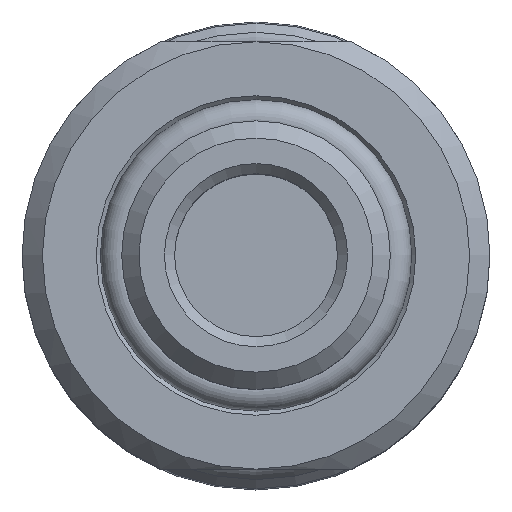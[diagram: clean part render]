
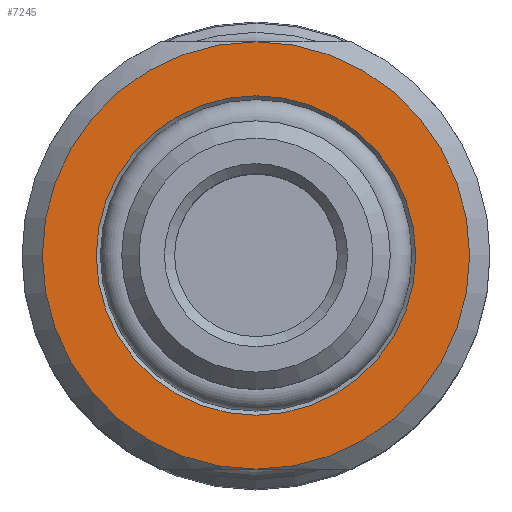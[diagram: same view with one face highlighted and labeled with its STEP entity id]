
A CAD part, top view. The second image highlights one B-rep face of the part: STEP entity #7245.
In plain terms, the highlighted planar face has unit normal (0, 0, 1).
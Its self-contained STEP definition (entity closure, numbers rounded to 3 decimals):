
#7245 = ADVANCED_FACE( '', ( #10513, #10514 ), #10515, .F. );
#10513 = FACE_OUTER_BOUND( '', #12436, .T. );
#10514 = FACE_BOUND( '', #12437, .T. );
#10515 = PLANE( '', #12438 );
#12436 = EDGE_LOOP( '', ( #15496, #15497 ) );
#12437 = EDGE_LOOP( '', ( #15498 ) );
#12438 = AXIS2_PLACEMENT_3D( '', #15499, #15500, #15501 );
#15496 = ORIENTED_EDGE( '', *, *, #24306, .F. );
#15497 = ORIENTED_EDGE( '', *, *, #24315, .F. );
#15498 = ORIENTED_EDGE( '', *, *, #24318, .T. );
#15499 = CARTESIAN_POINT( '', ( -7.85, 0., 1.874 ) );
#15500 = DIRECTION( '', ( 0., 0., -1. ) );
#15501 = DIRECTION( '', ( -1., 0., 0. ) );
#24306 = EDGE_CURVE( '', #25737, #25733, #25739, .T. );
#24315 = EDGE_CURVE( '', #25733, #25737, #25755, .T. );
#24318 = EDGE_CURVE( '', #25759, #25759, #25760, .T. );
#25733 = VERTEX_POINT( '', #27375 );
#25737 = VERTEX_POINT( '', #27386 );
#25739 = CIRCLE( '', #27395, 10.5 );
#25755 = CIRCLE( '', #27425, 10.5 );
#25759 = VERTEX_POINT( '', #27434 );
#25760 = CIRCLE( '', #27435, 7.85 );
#27375 = CARTESIAN_POINT( '', ( 0., 10.5, 1.874 ) );
#27386 = CARTESIAN_POINT( '', ( 0., -10.5, 1.874 ) );
#27395 = AXIS2_PLACEMENT_3D( '', #29066, #29067, #29068 );
#27425 = AXIS2_PLACEMENT_3D( '', #29078, #29079, #29080 );
#27434 = CARTESIAN_POINT( '', ( -7.85, 0., 1.874 ) );
#27435 = AXIS2_PLACEMENT_3D( '', #29084, #29085, #29086 );
#29066 = CARTESIAN_POINT( '', ( 0., 0., 1.874 ) );
#29067 = DIRECTION( '', ( 0., 0., -1. ) );
#29068 = DIRECTION( '', ( -1., 0., 0. ) );
#29078 = CARTESIAN_POINT( '', ( 0., 0., 1.874 ) );
#29079 = DIRECTION( '', ( 0., 0., -1. ) );
#29080 = DIRECTION( '', ( -1., 0., 0. ) );
#29084 = CARTESIAN_POINT( '', ( 0., 0., 1.874 ) );
#29085 = DIRECTION( '', ( 0., 0., -1. ) );
#29086 = DIRECTION( '', ( -1., 0., 0. ) );
